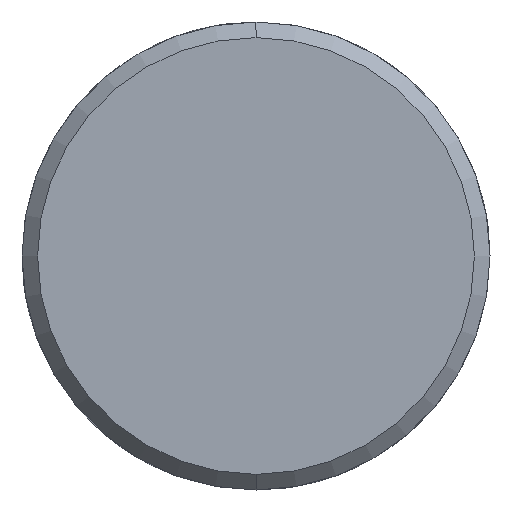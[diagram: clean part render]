
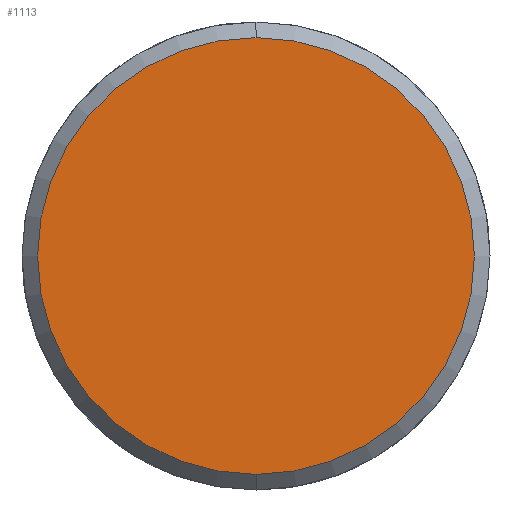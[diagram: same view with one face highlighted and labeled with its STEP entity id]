
A CAD part, left-side view. The second image highlights one B-rep face of the part: STEP entity #1113.
In plain terms, the highlighted planar face has unit normal (-1, 0, 0).
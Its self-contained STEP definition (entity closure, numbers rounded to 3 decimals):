
#1045=CARTESIAN_POINT('Vertex',(-5.,0.,-14.)) ;
#1048=CARTESIAN_POINT('Axis2P3D Location',(-5.,0.,0.)) ;
#1052=CARTESIAN_POINT('Vertex',(-5.,14.,0.)) ;
#1055=CARTESIAN_POINT('Axis2P3D Location',(-5.,0.,0.)) ;
#1059=CARTESIAN_POINT('Vertex',(-5.,0.,14.)) ;
#1081=CARTESIAN_POINT('Axis2P3D Location',(-5.,0.,0.)) ;
#1085=CARTESIAN_POINT('Vertex',(-5.,-14.,0.)) ;
#1088=CARTESIAN_POINT('Axis2P3D Location',(-5.,0.,0.)) ;
#1102=CARTESIAN_POINT('Axis2P3D Location',(-5.,0.,0.)) ;
#1049=DIRECTION('Axis2P3D Direction',(1.,0.,-0.)) ;
#1056=DIRECTION('Axis2P3D Direction',(1.,0.,-0.)) ;
#1082=DIRECTION('Axis2P3D Direction',(1.,0.,-0.)) ;
#1089=DIRECTION('Axis2P3D Direction',(1.,0.,-0.)) ;
#1103=DIRECTION('Axis2P3D Direction',(1.,0.,-0.)) ;
#1104=DIRECTION('Axis2P3D XDirection',(-0.,0.,-1.)) ;
#1050=AXIS2_PLACEMENT_3D('Circle Axis2P3D',#1048,#1049,$) ;
#1057=AXIS2_PLACEMENT_3D('Circle Axis2P3D',#1055,#1056,$) ;
#1083=AXIS2_PLACEMENT_3D('Circle Axis2P3D',#1081,#1082,$) ;
#1090=AXIS2_PLACEMENT_3D('Circle Axis2P3D',#1088,#1089,$) ;
#1105=AXIS2_PLACEMENT_3D('Plane Axis2P3D',#1102,#1103,#1104) ;
#1108=ORIENTED_EDGE('',*,*,#1054,.F.) ;
#1109=ORIENTED_EDGE('',*,*,#1092,.F.) ;
#1110=ORIENTED_EDGE('',*,*,#1087,.F.) ;
#1111=ORIENTED_EDGE('',*,*,#1061,.F.) ;
#1113=ADVANCED_FACE('351-18X46X90',(#1112),#1106,.F.) ;
#1051=CIRCLE('generated circle',#1050,14.) ;
#1058=CIRCLE('generated circle',#1057,14.) ;
#1084=CIRCLE('generated circle',#1083,14.) ;
#1091=CIRCLE('generated circle',#1090,14.) ;
#1054=EDGE_CURVE('',#1046,#1053,#1051,.T.) ;
#1061=EDGE_CURVE('',#1053,#1060,#1058,.T.) ;
#1087=EDGE_CURVE('',#1060,#1086,#1084,.T.) ;
#1092=EDGE_CURVE('',#1086,#1046,#1091,.T.) ;
#1107=EDGE_LOOP('',(#1108,#1109,#1110,#1111)) ;
#1112=FACE_OUTER_BOUND('',#1107,.T.) ;
#1106=PLANE('Plane',#1105) ;
#1046=VERTEX_POINT('',#1045) ;
#1053=VERTEX_POINT('',#1052) ;
#1060=VERTEX_POINT('',#1059) ;
#1086=VERTEX_POINT('',#1085) ;
